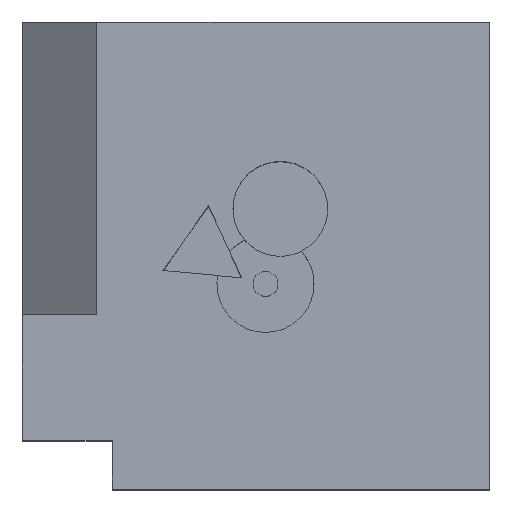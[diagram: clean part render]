
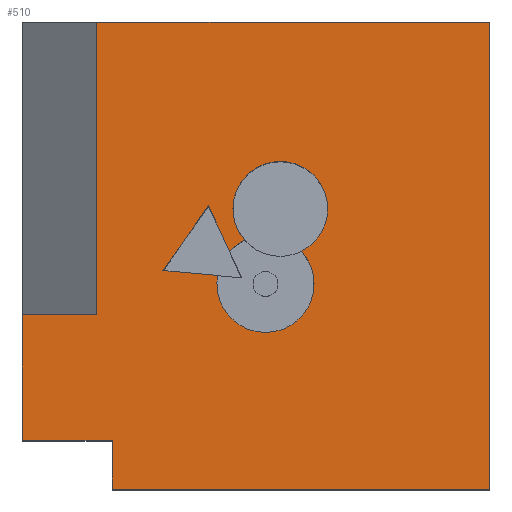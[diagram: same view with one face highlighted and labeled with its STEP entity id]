
A CAD part, top view. The second image highlights one B-rep face of the part: STEP entity #510.
In plain terms, the highlighted planar face has unit normal (0, 0, 1).
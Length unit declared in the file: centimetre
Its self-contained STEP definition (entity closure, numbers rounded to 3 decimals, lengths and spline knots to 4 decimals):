
#9 = ORIENTED_EDGE ( 'NONE', *, *, #697, .T. ) ;
#11 = DIRECTION ( 'NONE',  ( 1., 0., 0. ) ) ;
#13 = CARTESIAN_POINT ( 'NONE',  ( 0., 1000., 1000. ) ) ;
#31 = LINE ( 'NONE', #909, #1376 ) ;
#49 = EDGE_CURVE ( 'NONE', #1046, #802, #1092, .T. ) ;
#56 = LINE ( 'NONE', #1337, #533 ) ;
#64 = CIRCLE ( 'NONE', #438, 103.8773 ) ;
#67 = AXIS2_PLACEMENT_3D ( 'NONE', #1245, #1127, #1252 ) ;
#68 = EDGE_CURVE ( 'NONE', #650, #1046, #343, .T. ) ;
#69 = VECTOR ( 'NONE', #433, 100. ) ;
#92 = CARTESIAN_POINT ( 'NONE',  ( 398.319, 606.5873, 1000. ) ) ;
#94 = CARTESIAN_POINT ( 'NONE',  ( 159.1531, 373.3968, 1000. ) ) ;
#102 = CARTESIAN_POINT ( 'NONE',  ( 520.299, 439.3433, 1000. ) ) ;
#104 = CARTESIAN_POINT ( 'NONE',  ( 552.0024, 600.2278, 1000. ) ) ;
#105 = ORIENTED_EDGE ( 'NONE', *, *, #640, .T. ) ;
#141 = ORIENTED_EDGE ( 'NONE', *, *, #367, .F. ) ;
#146 = ORIENTED_EDGE ( 'NONE', *, *, #68, .F. ) ;
#147 = VERTEX_POINT ( 'NONE', #698 ) ;
#151 = ORIENTED_EDGE ( 'NONE', *, *, #1390, .F. ) ;
#194 = DIRECTION ( 'NONE',  ( 1., 0., 0. ) ) ;
#196 = VERTEX_POINT ( 'NONE', #94 ) ;
#199 = CARTESIAN_POINT ( 'NONE',  ( 0., 0., 1000. ) ) ;
#219 = CARTESIAN_POINT ( 'NONE',  ( 192.2967, 0., 1000. ) ) ;
#222 = LINE ( 'NONE', #13, #1138 ) ;
#234 = EDGE_LOOP ( 'NONE', ( #1047, #588, #831, #944, #146, #579, #1304, #308, #151, #1147 ) ) ;
#236 = VECTOR ( 'NONE', #768, 100. ) ;
#238 = VECTOR ( 'NONE', #643, 100. ) ;
#243 = DIRECTION ( 'NONE',  ( 0., 0., 1. ) ) ;
#244 = CARTESIAN_POINT ( 'NONE',  ( 192.2967, 104.4949, 1000. ) ) ;
#261 = CIRCLE ( 'NONE', #928, 103.8773 ) ;
#263 = DIRECTION ( 'NONE',  ( 1., 0., 0. ) ) ;
#265 = EDGE_CURVE ( 'NONE', #1087, #468, #350, .T. ) ;
#268 = DIRECTION ( 'NONE',  ( 0., 1., 0. ) ) ;
#283 = EDGE_LOOP ( 'NONE', ( #141, #1421, #957, #301, #9, #844, #1414, #105 ) ) ;
#301 = ORIENTED_EDGE ( 'NONE', *, *, #423, .T. ) ;
#303 = CARTESIAN_POINT ( 'NONE',  ( 624.1764, 439.3433, 1000. ) ) ;
#308 = ORIENTED_EDGE ( 'NONE', *, *, #905, .F. ) ;
#310 = DIRECTION ( 'NONE',  ( -0.42, 0.908, 0. ) ) ;
#343 = LINE ( 'NONE', #570, #461 ) ;
#350 = CIRCLE ( 'NONE', #1162, 101.3559 ) ;
#367 = EDGE_CURVE ( 'NONE', #772, #815, #56, .T. ) ;
#374 = CARTESIAN_POINT ( 'NONE',  ( 0., 104.4949, 1000. ) ) ;
#384 = AXIS2_PLACEMENT_3D ( 'NONE', #565, #243, #870 ) ;
#399 = FACE_OUTER_BOUND ( 'NONE', #283, .T. ) ;
#406 = FACE_BOUND ( 'NONE', #234, .T. ) ;
#411 = EDGE_CURVE ( 'NONE', #1095, #772, #1098, .T. ) ;
#422 = PLANE ( 'NONE',  #1359 ) ;
#423 = EDGE_CURVE ( 'NONE', #1269, #147, #1219, .T. ) ;
#427 = DIRECTION ( 'NONE',  ( 0., 0., 1. ) ) ;
#433 = DIRECTION ( 'NONE',  ( 0., 1., 0. ) ) ;
#438 = AXIS2_PLACEMENT_3D ( 'NONE', #475, #821, #263 ) ;
#445 = LINE ( 'NONE', #1223, #708 ) ;
#446 = VERTEX_POINT ( 'NONE', #855 ) ;
#461 = VECTOR ( 'NONE', #465, 100. ) ;
#465 = DIRECTION ( 'NONE',  ( 0.996, -0.09, 0. ) ) ;
#468 = VERTEX_POINT ( 'NONE', #1440 ) ;
#475 = CARTESIAN_POINT ( 'NONE',  ( 520.299, 439.3433, 1000. ) ) ;
#495 = EDGE_CURVE ( 'NONE', #953, #1182, #1305, .T. ) ;
#510 = ADVANCED_FACE ( 'NONE', ( #406, #399 ), #422, .T. ) ;
#517 = VERTEX_POINT ( 'NONE', #843 ) ;
#533 = VECTOR ( 'NONE', #542, 100. ) ;
#542 = DIRECTION ( 'NONE',  ( -1., 0., 0. ) ) ;
#543 = VERTEX_POINT ( 'NONE', #92 ) ;
#545 = LINE ( 'NONE', #1341, #1424 ) ;
#560 = CARTESIAN_POINT ( 'NONE',  ( 443.3911, 509.1693, 1000. ) ) ;
#565 = CARTESIAN_POINT ( 'NONE',  ( 552.0024, 600.2278, 1000. ) ) ;
#570 = CARTESIAN_POINT ( 'NONE',  ( 300.73, 468.1002, 1000. ) ) ;
#579 = ORIENTED_EDGE ( 'NONE', *, *, #675, .F. ) ;
#588 = ORIENTED_EDGE ( 'NONE', *, *, #495, .F. ) ;
#634 = CARTESIAN_POINT ( 'NONE',  ( 552.0024, 600.2278, 1000. ) ) ;
#640 = EDGE_CURVE ( 'NONE', #446, #815, #545, .T. ) ;
#643 = DIRECTION ( 'NONE',  ( 0., 1., 0. ) ) ;
#650 = VERTEX_POINT ( 'NONE', #658 ) ;
#658 = CARTESIAN_POINT ( 'NONE',  ( 300.73, 468.1002, 1000. ) ) ;
#661 = DIRECTION ( 'NONE',  ( 0., 0., 1. ) ) ;
#669 = CARTESIAN_POINT ( 'NONE',  ( 159.1531, 373.3968, 1000. ) ) ;
#675 = EDGE_CURVE ( 'NONE', #543, #650, #445, .T. ) ;
#679 = DIRECTION ( 'NONE',  ( 0., -1., 0. ) ) ;
#697 = EDGE_CURVE ( 'NONE', #147, #1042, #222, .T. ) ;
#698 = CARTESIAN_POINT ( 'NONE',  ( 1000., 1000., 1000. ) ) ;
#708 = VECTOR ( 'NONE', #994, 100. ) ;
#713 = CARTESIAN_POINT ( 'NONE',  ( 416.4217, 439.3433, 1000. ) ) ;
#740 = CARTESIAN_POINT ( 'NONE',  ( 469.4578, 452.8292, 1000. ) ) ;
#764 = DIRECTION ( 'NONE',  ( 0., 0., 1. ) ) ;
#768 = DIRECTION ( 'NONE',  ( 1., 0., 0. ) ) ;
#772 = VERTEX_POINT ( 'NONE', #244 ) ;
#780 = DIRECTION ( 'NONE',  ( 0., 0., 1. ) ) ;
#791 = CARTESIAN_POINT ( 'NONE',  ( 159.1531, 1000., 1000. ) ) ;
#799 = CARTESIAN_POINT ( 'NONE',  ( 596.9929, 509.4044, 1000. ) ) ;
#802 = VERTEX_POINT ( 'NONE', #713 ) ;
#811 = CIRCLE ( 'NONE', #1028, 101.3559 ) ;
#815 = VERTEX_POINT ( 'NONE', #374 ) ;
#821 = DIRECTION ( 'NONE',  ( 0., 0., 1. ) ) ;
#831 = ORIENTED_EDGE ( 'NONE', *, *, #1410, .F. ) ;
#843 = CARTESIAN_POINT ( 'NONE',  ( 475.9187, 533.2629, 1000. ) ) ;
#844 = ORIENTED_EDGE ( 'NONE', *, *, #850, .F. ) ;
#850 = EDGE_CURVE ( 'NONE', #196, #1042, #31, .T. ) ;
#855 = CARTESIAN_POINT ( 'NONE',  ( 0., 373.3968, 1000. ) ) ;
#865 = DIRECTION ( 'NONE',  ( 0., 0., 1. ) ) ;
#870 = DIRECTION ( 'NONE',  ( 1., 0., 0. ) ) ;
#874 = AXIS2_PLACEMENT_3D ( 'NONE', #102, #780, #1431 ) ;
#905 = EDGE_CURVE ( 'NONE', #517, #1149, #64, .T. ) ;
#909 = CARTESIAN_POINT ( 'NONE',  ( 159.1531, 373.3968, 1000. ) ) ;
#928 = AXIS2_PLACEMENT_3D ( 'NONE', #1392, #661, #1432 ) ;
#942 = VECTOR ( 'NONE', #11, 100. ) ;
#944 = ORIENTED_EDGE ( 'NONE', *, *, #49, .F. ) ;
#953 = VERTEX_POINT ( 'NONE', #303 ) ;
#957 = ORIENTED_EDGE ( 'NONE', *, *, #1130, .T. ) ;
#982 = DIRECTION ( 'NONE',  ( 1., 0., 0. ) ) ;
#990 = CARTESIAN_POINT ( 'NONE',  ( 192.2967, 0., 1000. ) ) ;
#994 = DIRECTION ( 'NONE',  ( -0.576, -0.817, 0. ) ) ;
#1011 = CARTESIAN_POINT ( 'NONE',  ( 0., 0., 1000. ) ) ;
#1013 = EDGE_CURVE ( 'NONE', #1149, #543, #1174, .T. ) ;
#1024 = CARTESIAN_POINT ( 'NONE',  ( 1000., 0., 1000. ) ) ;
#1028 = AXIS2_PLACEMENT_3D ( 'NONE', #104, #764, #1177 ) ;
#1042 = VERTEX_POINT ( 'NONE', #791 ) ;
#1046 = VERTEX_POINT ( 'NONE', #1131 ) ;
#1047 = ORIENTED_EDGE ( 'NONE', *, *, #1081, .F. ) ;
#1081 = EDGE_CURVE ( 'NONE', #1182, #1087, #1303, .T. ) ;
#1087 = VERTEX_POINT ( 'NONE', #1228 ) ;
#1092 = CIRCLE ( 'NONE', #67, 103.8773 ) ;
#1095 = VERTEX_POINT ( 'NONE', #219 ) ;
#1098 = LINE ( 'NONE', #990, #69 ) ;
#1109 = CARTESIAN_POINT ( 'NONE',  ( 1000., 1000., 1000. ) ) ;
#1117 = LINE ( 'NONE', #1011, #942 ) ;
#1118 = VECTOR ( 'NONE', #310, 100. ) ;
#1123 = EDGE_CURVE ( 'NONE', #446, #196, #1124, .T. ) ;
#1124 = LINE ( 'NONE', #669, #236 ) ;
#1127 = DIRECTION ( 'NONE',  ( 0., 0., 1. ) ) ;
#1130 = EDGE_CURVE ( 'NONE', #1095, #1269, #1117, .T. ) ;
#1131 = CARTESIAN_POINT ( 'NONE',  ( 418.0181, 457.4848, 1000. ) ) ;
#1138 = VECTOR ( 'NONE', #1445, 100. ) ;
#1147 = ORIENTED_EDGE ( 'NONE', *, *, #265, .F. ) ;
#1149 = VERTEX_POINT ( 'NONE', #560 ) ;
#1162 = AXIS2_PLACEMENT_3D ( 'NONE', #634, #427, #982 ) ;
#1174 = LINE ( 'NONE', #740, #1118 ) ;
#1177 = DIRECTION ( 'NONE',  ( 1., 0., 0. ) ) ;
#1182 = VERTEX_POINT ( 'NONE', #799 ) ;
#1219 = LINE ( 'NONE', #1109, #238 ) ;
#1223 = CARTESIAN_POINT ( 'NONE',  ( 398.319, 606.5873, 1000. ) ) ;
#1228 = CARTESIAN_POINT ( 'NONE',  ( 653.3584, 600.2278, 1000. ) ) ;
#1245 = CARTESIAN_POINT ( 'NONE',  ( 520.299, 439.3433, 1000. ) ) ;
#1252 = DIRECTION ( 'NONE',  ( 1., 0., 0. ) ) ;
#1269 = VERTEX_POINT ( 'NONE', #1024 ) ;
#1303 = CIRCLE ( 'NONE', #384, 101.3559 ) ;
#1304 = ORIENTED_EDGE ( 'NONE', *, *, #1013, .F. ) ;
#1305 = CIRCLE ( 'NONE', #874, 103.8773 ) ;
#1337 = CARTESIAN_POINT ( 'NONE',  ( 0., 104.4949, 1000. ) ) ;
#1341 = CARTESIAN_POINT ( 'NONE',  ( 0., 1000., 1000. ) ) ;
#1359 = AXIS2_PLACEMENT_3D ( 'NONE', #199, #865, #194 ) ;
#1376 = VECTOR ( 'NONE', #268, 100. ) ;
#1390 = EDGE_CURVE ( 'NONE', #468, #517, #811, .T. ) ;
#1392 = CARTESIAN_POINT ( 'NONE',  ( 520.299, 439.3433, 1000. ) ) ;
#1410 = EDGE_CURVE ( 'NONE', #802, #953, #261, .T. ) ;
#1414 = ORIENTED_EDGE ( 'NONE', *, *, #1123, .F. ) ;
#1421 = ORIENTED_EDGE ( 'NONE', *, *, #411, .F. ) ;
#1424 = VECTOR ( 'NONE', #679, 100. ) ;
#1431 = DIRECTION ( 'NONE',  ( 1., 0., 0. ) ) ;
#1432 = DIRECTION ( 'NONE',  ( 1., 0., 0. ) ) ;
#1440 = CARTESIAN_POINT ( 'NONE',  ( 450.6465, 600.2278, 1000. ) ) ;
#1445 = DIRECTION ( 'NONE',  ( -1., 0., 0. ) ) ;
